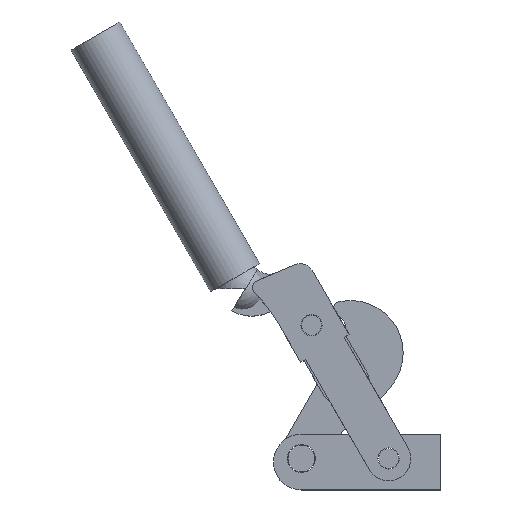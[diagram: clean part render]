
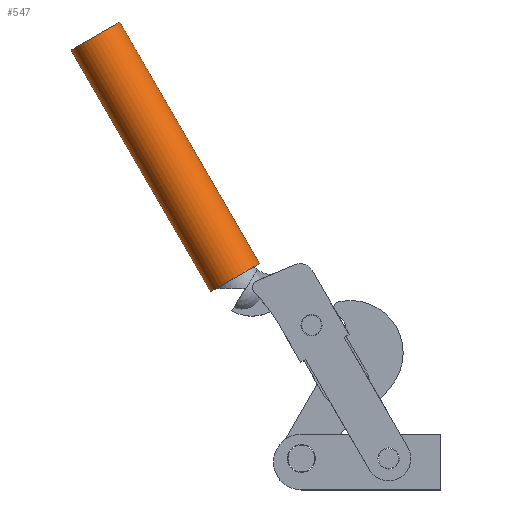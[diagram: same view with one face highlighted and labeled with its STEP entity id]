
A CAD part, top view. The second image highlights one B-rep face of the part: STEP entity #547.
In plain terms, the highlighted cylindrical face has radius 12.827 mm (diameter 25.654 mm), a partial arc.
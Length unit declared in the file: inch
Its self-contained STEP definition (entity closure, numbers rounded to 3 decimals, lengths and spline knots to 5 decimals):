
#547 = ADVANCED_FACE( '', ( #755 ), #756, .T. );
#755 = FACE_OUTER_BOUND( '', #1105, .T. );
#756 = CYLINDRICAL_SURFACE( '', #1106, 0.505 );
#1105 = EDGE_LOOP( '', ( #1708, #1709, #1710, #1711 ) );
#1106 = AXIS2_PLACEMENT_3D( '', #1712, #1713, #1714 );
#1708 = ORIENTED_EDGE( '', *, *, #2808, .F. );
#1709 = ORIENTED_EDGE( '', *, *, #2809, .T. );
#1710 = ORIENTED_EDGE( '', *, *, #2810, .F. );
#1711 = ORIENTED_EDGE( '', *, *, #2811, .F. );
#1712 = CARTESIAN_POINT( '', ( -6.31375, 8.3492, 0. ) );
#1713 = DIRECTION( '', ( 0.5, -0.866, 0. ) );
#1714 = DIRECTION( '', ( 0.866, 0.5, 0. ) );
#2808 = EDGE_CURVE( '', #3333, #3334, #3335, .T. );
#2809 = EDGE_CURVE( '', #3333, #3336, #3337, .T. );
#2810 = EDGE_CURVE( '', #3338, #3336, #3339, .T. );
#2811 = EDGE_CURVE( '', #3334, #3338, #3340, .T. );
#3333 = VERTEX_POINT( '', #4101 );
#3334 = VERTEX_POINT( '', #4102 );
#3335 = LINE( '', #4103, #4104 );
#3336 = VERTEX_POINT( '', #4105 );
#3337 = CIRCLE( '', #4106, 0.505 );
#3338 = VERTEX_POINT( '', #4107 );
#3339 = LINE( '', #4108, #4109 );
#3340 = CIRCLE( '', #4110, 0.505 );
#4101 = CARTESIAN_POINT( '', ( -5.75141, 8.38535, 0. ) );
#4102 = CARTESIAN_POINT( '', ( -3.25021, 4.05592, 0. ) );
#4103 = CARTESIAN_POINT( '', ( -5.87647, 8.60182, 0. ) );
#4104 = VECTOR( '', #5028, 1. );
#4105 = CARTESIAN_POINT( '', ( -6.62596, 7.88011, 0. ) );
#4106 = AXIS2_PLACEMENT_3D( '', #5029, #5030, #5031 );
#4107 = CARTESIAN_POINT( '', ( -4.12476, 3.55068, 0. ) );
#4108 = CARTESIAN_POINT( '', ( -6.75102, 8.09658, 0. ) );
#4109 = VECTOR( '', #5032, 1. );
#4110 = AXIS2_PLACEMENT_3D( '', #5033, #5034, #5035 );
#5028 = DIRECTION( '', ( 0.5, -0.866, 0. ) );
#5029 = CARTESIAN_POINT( '', ( -6.18869, 8.13273, 0. ) );
#5030 = DIRECTION( '', ( 0.5, -0.866, 0. ) );
#5031 = DIRECTION( '', ( 0.866, 0.5, 0. ) );
#5032 = DIRECTION( '', ( -0.5, 0.866, 0. ) );
#5033 = CARTESIAN_POINT( '', ( -3.68749, 3.8033, 0. ) );
#5034 = DIRECTION( '', ( 0.5, -0.866, 0. ) );
#5035 = DIRECTION( '', ( 0.866, 0.5, 0. ) );
